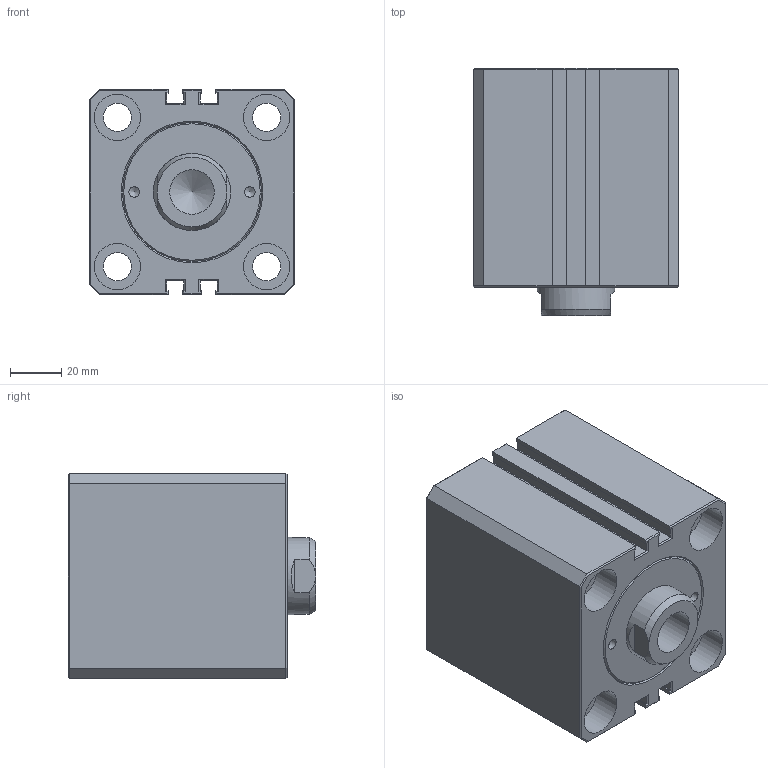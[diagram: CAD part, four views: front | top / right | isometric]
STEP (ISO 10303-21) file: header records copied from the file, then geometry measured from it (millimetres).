
FILE_DESCRIPTION(/* description */ ('Unknown'),/* implementation_level */ '2;1');
FILE_NAME(/* name */ 'HTM140-SD50X10N',/* time_stamp */ '2022-09-01T01:31:18+08:00',/* author */ ('Unknown'),/* organization */ ('Unknown'),/* preprocessor_version */ 'ST-DEVELOPER v16.7',/* originating_system */ 'DEX',/* authorisation */ $);
FILE_SCHEMA (('AUTOMOTIVE_DESIGN {1 0 10303 214 3 1 1}'));
Length unit declared in the file: millimetre
Products named in the file (1): HTM140-SD50X10N
Bounding box: 80 x 96 x 80 mm (x, y, z)
Volume: 480666.1 mm3; surface area: 59733 mm2
Topology: 1 solids, 1 shells, 187 faces, 428 edges, 257 vertices
Faces by surface type: plane 140, cylinder 19, cone 16, bspline 12
Full cylindrical faces by diameter (mm): 4.1 x2, 6 x1, 11 x4, 12.301 x2, 17.294 x1, 18 x8, 30 x1
Entity records: 6353 total; most frequent: CARTESIAN_POINT 1061, ORIENTED_EDGE 778, DIRECTION 768, EDGE_CURVE 389, LINE 294, VECTOR 294, VERTEX_POINT 248, FACE_BOUND 239
